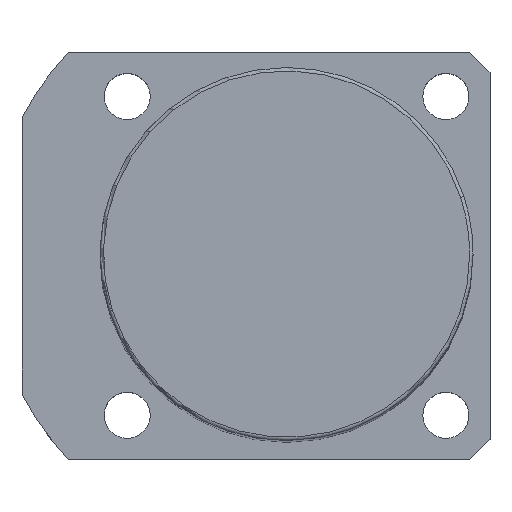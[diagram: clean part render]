
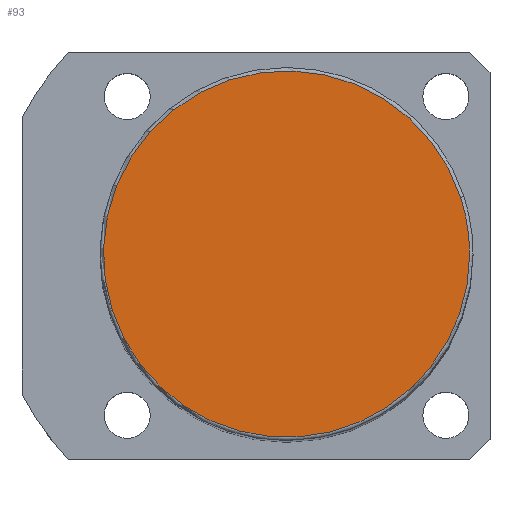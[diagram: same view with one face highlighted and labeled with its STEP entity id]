
A CAD part, top view. The second image highlights one B-rep face of the part: STEP entity #93.
In plain terms, the highlighted planar face has unit normal (0, 0, 1).
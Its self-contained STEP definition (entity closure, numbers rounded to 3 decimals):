
#16=CARTESIAN_POINT('',(25.679,8.343,166.0));
#17=VERTEX_POINT('',#16);
#45=CARTESIAN_POINT('',(-25.679,-8.343,166.0));
#46=VERTEX_POINT('',#45);
#54=CARTESIAN_POINT('',(0.0,0.0,166.0));
#55=DIRECTION('',(0.0,0.0,1.0));
#56=DIRECTION('',(1.0,0.0,0.0));
#57=AXIS2_PLACEMENT_3D('',#54,#55,#56);
#58=CIRCLE('',#57,27.0);
#59=EDGE_CURVE('no 890',#17,#46,#58,.T.);
#69=CARTESIAN_POINT('',(27.0,0.0,166.0));
#70=VERTEX_POINT('',#69);
#71=CARTESIAN_POINT('',(0.0,0.0,166.0));
#72=DIRECTION('',(0.0,0.0,1.0));
#73=DIRECTION('',(1.0,0.0,0.0));
#74=AXIS2_PLACEMENT_3D('',#71,#72,#73);
#75=CIRCLE('',#74,27.0);
#76=EDGE_CURVE('no 899',#70,#17,#75,.T.);
#77=ORIENTED_EDGE('',*,*,#76,.T.);
#78=ORIENTED_EDGE('',*,*,#59,.T.);
#79=CARTESIAN_POINT('',(0.0,0.0,166.0));
#80=DIRECTION('',(0.0,0.0,1.0));
#81=DIRECTION('',(1.0,0.0,0.0));
#82=AXIS2_PLACEMENT_3D('',#79,#80,#81);
#83=CIRCLE('',#82,27.0);
#84=EDGE_CURVE('no 905',#46,#70,#83,.T.);
#85=ORIENTED_EDGE('',*,*,#84,.T.);
#86=EDGE_LOOP('',(#77,#78,#85));
#87=FACE_OUTER_BOUND('',#86,.T.);
#88=CARTESIAN_POINT('',(0.0,0.0,166.0));
#89=DIRECTION('',(0.0,0.0,1.0));
#90=DIRECTION('',(1.0,0.0,0.0));
#91=AXIS2_PLACEMENT_3D('',#88,#89,#90);
#92=PLANE('',#91);
#93=ADVANCED_FACE('no 892',(#87),#92,.T.);
